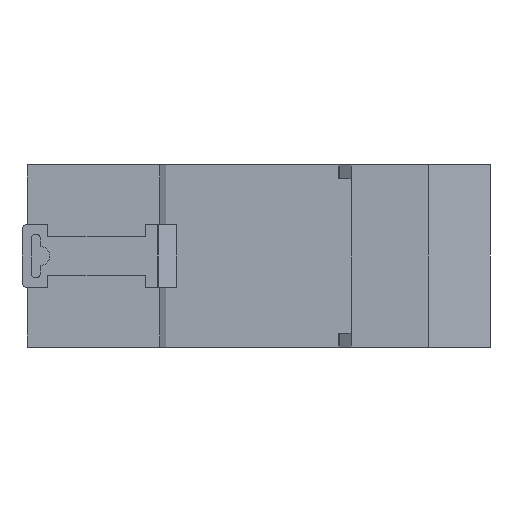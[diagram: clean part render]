
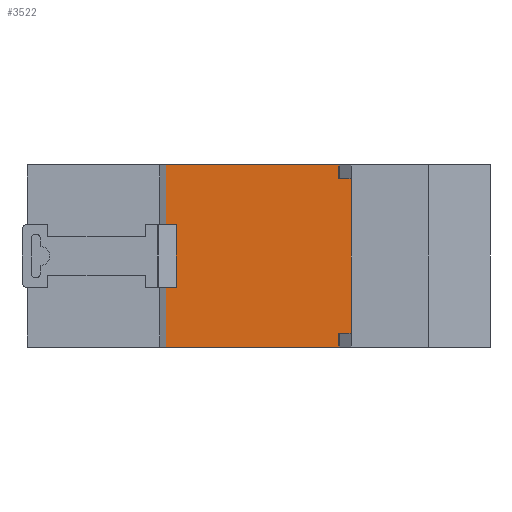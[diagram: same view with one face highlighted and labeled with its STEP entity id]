
A CAD part, left-side view. The second image highlights one B-rep face of the part: STEP entity #3522.
In plain terms, the highlighted planar face has unit normal (-1, 0, 0).
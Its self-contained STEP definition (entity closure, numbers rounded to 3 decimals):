
#483 = PLANE ( 'NONE',  #4053 ) ;
#601 = ORIENTED_EDGE ( 'NONE', *, *, #9110, .T. ) ;
#894 = CARTESIAN_POINT ( 'NONE',  ( -60., -4.25, 0. ) ) ;
#1348 = VECTOR ( 'NONE', #7465, 1000. ) ;
#2157 = LINE ( 'NONE', #894, #9008 ) ;
#2420 = LINE ( 'NONE', #7252, #3996 ) ;
#2954 = LINE ( 'NONE', #5957, #14227 ) ;
#3522 = ADVANCED_FACE ( 'NONE', ( #6253 ), #483, .F. ) ;
#3711 = DIRECTION ( 'NONE',  ( 0., 0., -1. ) ) ;
#3970 = ORIENTED_EDGE ( 'NONE', *, *, #14000, .F. ) ;
#3996 = VECTOR ( 'NONE', #4915, 1000. ) ;
#4053 = AXIS2_PLACEMENT_3D ( 'NONE', #6102, #13918, #6056 ) ;
#4915 = DIRECTION ( 'NONE',  ( 0., -1., 0. ) ) ;
#5130 = CARTESIAN_POINT ( 'NONE',  ( -60., -40.25, 35.4 ) ) ;
#5883 = VERTEX_POINT ( 'NONE', #11932 ) ;
#5957 = CARTESIAN_POINT ( 'NONE',  ( -60., -4.25, 35.4 ) ) ;
#6056 = DIRECTION ( 'NONE',  ( 0., 1., 0. ) ) ;
#6102 = CARTESIAN_POINT ( 'NONE',  ( -60., -4.25, 35.4 ) ) ;
#6253 = FACE_OUTER_BOUND ( 'NONE', #8686, .T. ) ;
#6962 = LINE ( 'NONE', #5130, #1348 ) ;
#7252 = CARTESIAN_POINT ( 'NONE',  ( -60., -4.25, 35.4 ) ) ;
#7260 = VERTEX_POINT ( 'NONE', #14569 ) ;
#7465 = DIRECTION ( 'NONE',  ( 0., 0., -1. ) ) ;
#7563 = ORIENTED_EDGE ( 'NONE', *, *, #12381, .T. ) ;
#8586 = DIRECTION ( 'NONE',  ( 0., -1., 0. ) ) ;
#8686 = EDGE_LOOP ( 'NONE', ( #601, #13432, #3970, #7563 ) ) ;
#8989 = CARTESIAN_POINT ( 'NONE',  ( -60., -40.25, 35.4 ) ) ;
#9008 = VECTOR ( 'NONE', #8586, 1000. ) ;
#9030 = VERTEX_POINT ( 'NONE', #14009 ) ;
#9110 = EDGE_CURVE ( 'NONE', #9030, #7260, #2157, .T. ) ;
#11932 = CARTESIAN_POINT ( 'NONE',  ( -60., -4.25, 35.4 ) ) ;
#12381 = EDGE_CURVE ( 'NONE', #5883, #9030, #2954, .T. ) ;
#13432 = ORIENTED_EDGE ( 'NONE', *, *, #13567, .F. ) ;
#13567 = EDGE_CURVE ( 'NONE', #13838, #7260, #6962, .T. ) ;
#13838 = VERTEX_POINT ( 'NONE', #8989 ) ;
#13918 = DIRECTION ( 'NONE',  ( 1., 0., 0. ) ) ;
#14000 = EDGE_CURVE ( 'NONE', #5883, #13838, #2420, .T. ) ;
#14009 = CARTESIAN_POINT ( 'NONE',  ( -60., -4.25, 0. ) ) ;
#14227 = VECTOR ( 'NONE', #3711, 1000. ) ;
#14569 = CARTESIAN_POINT ( 'NONE',  ( -60., -40.25, 0. ) ) ;
